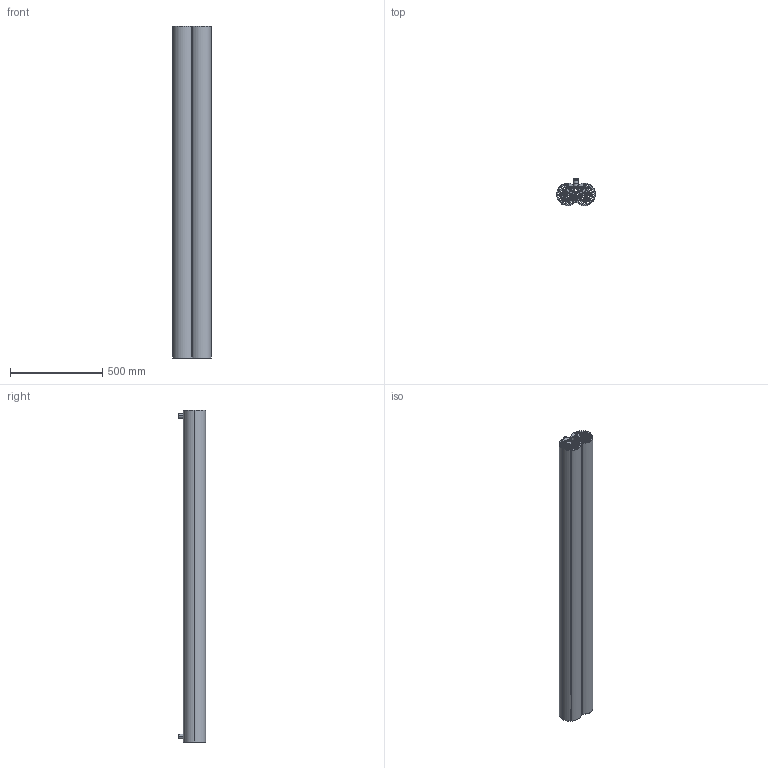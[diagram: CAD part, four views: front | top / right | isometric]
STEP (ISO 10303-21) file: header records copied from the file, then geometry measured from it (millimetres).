
FILE_DESCRIPTION (( 'STEP AP203' ), '1' );
FILE_NAME ('FOTW18210V.STEP', '2026-03-04T13:08:04', ( '' ), ( '' ), 'SwSTEP 2.0', 'SolidWorks 2025', '' );
FILE_SCHEMA (( 'CONFIG_CONTROL_DESIGN' ));
Length unit declared in the file: millimetre
Products named in the file (13): d0090024.prt; 8L.stp.STEP; D009P0021.stp.STEP; D0099409R1; D0090200_AF0_ASM.stp.STEP; SUPPORTO.STEP; FOTW18210V; CORPO_1800; VAFTBC_ISO-7049-ST5_3X15.stp.STEP; D0090022.stp.STEP
Assembly tree (15 placements, depth 5):
  FOTW18210V
    D0099409R1
    CORPO_1800
    SUPPORTO.STEP
      8L.stp.STEP
        D0090200_AF0_ASM.stp.STEP
          D009P0021.stp.STEP
          D0090022.stp.STEP
    d0090024.prt  x2
    SUPPORTO.STEP
      8L.stp.STEP
        D0090200_AF0_ASM.stp.STEP
          D009P0021.stp.STEP
          D0090022.stp.STEP
          VAFTBC_ISO-7049-ST5_3X15.stp.STEP
Bounding box: 210 x 146.86 x 1802 mm (x, y, z)
Volume: 5395747 mm3; surface area: 3658229.8 mm2
Topology: 7 solids, 13 shells, 504 faces, 1390 edges, 904 vertices
Faces by surface type: cylinder 316, plane 154, bspline 34
Entity records: 17905 total; most frequent: CARTESIAN_POINT 5657, ORIENTED_EDGE 2428, DIRECTION 2138, EDGE_CURVE 1218, AXIS2_PLACEMENT_3D 823, VERTEX_POINT 800, EDGE_LOOP 510, VECTOR 492
